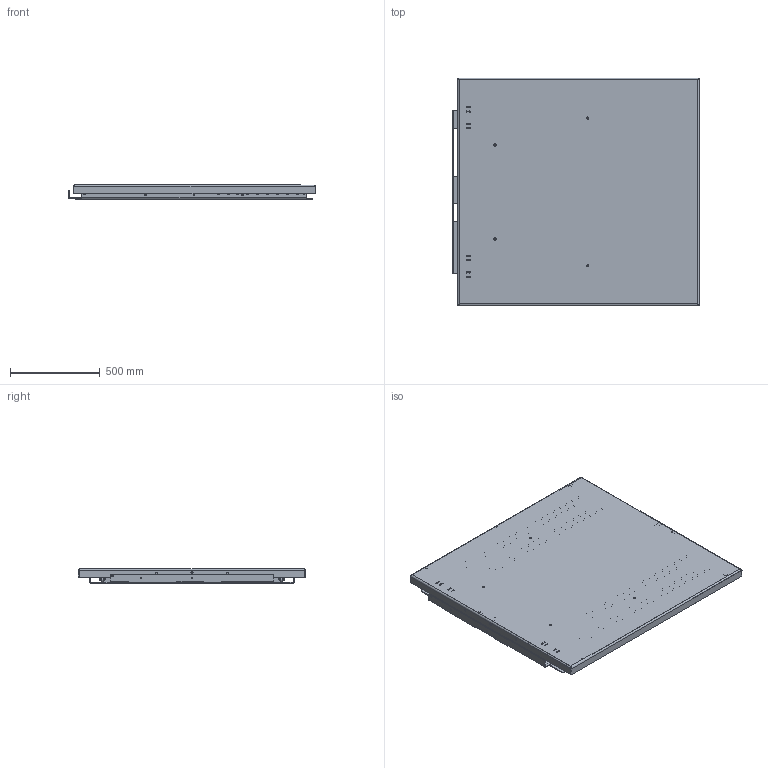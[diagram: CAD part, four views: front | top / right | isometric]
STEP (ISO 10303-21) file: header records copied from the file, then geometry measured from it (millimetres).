
FILE_DESCRIPTION(/* description */ ('TCL 1000GB 1350x1270'),/* implementation_level */ '2;1');
FILE_NAME(/* name */ 'C:\Autodesk_VaultWork\Ritningar\601224_Collapsed.stp',/* time_stamp */ '2019-04-05T08:59:37+02:00',/* author */ ('johso'),/* organization */ (''),/* preprocessor_version */ 'ST-DEVELOPER v16.5',/* originating_system */ 'Autodesk Inventor 2017',/* authorisation */ '');
FILE_SCHEMA (('AUTOMOTIVE_DESIGN { 1 0 10303 214 3 1 1 }'));
Length unit declared in the file: millimetre
Products named in the file (28): 601224.tmp; 602932; 602933; 80476; 601156; 601162; ISO 4019 - 80x60x4 - 828; 600513; 36570-1; 600502; 36571; 36572; 600950; 36159; 36546; 45254-10; 84409; 83208; 84157; 85797; 600493-161; 601158; 602066; 44572; 45087; ISO 4016 - M6 x 35; 45266; 612450
Assembly tree (68 placements, depth 5):
  601224.tmp
    602932
      602933
      45266  x8
      80476  x4
    601156
      601162
        ISO 4019 - 80x60x4 - 828  x2
        600513  x2
          36570-1
          600502
      36571  x2
        36572
      600950  x2
      36159  x2
      36546  x2
      45254-10  x2
      84409  x2
      83208  x2
      84157  x2
      600493-161  x2
      85797  x4
    601158
      602066
      44572  x2
      45087  x2
      ISO 4016 - M6 x 35  x6
      45266  x8
    612450
Bounding box: 1378.01 x 1270 x 80 mm (x, y, z)
Volume: 23409918.2 mm3; surface area: 8297629.6 mm2
Topology: 59 solids, 59 shells, 2762 faces, 7661 edges, 5047 vertices
Faces by surface type: cylinder 1438, plane 1080, cone 166, torus 38, bspline 36, sphere 4
Full cylindrical faces by diameter (mm): 5 x8, 5.5 x6, 6 x46, 7 x3, 7.4 x12, 8 x2, 8.376 x4, 8.5 x16, 8.7 x4, 9 x6, 10 x2, 10.5 x2, 11 x2, 11.63 x2, 12 x4, 12.5 x6, 13 x14, 14.63 x2, 16 x6, 17.2 x2, 22 x2, 22.1 x4
Entity records: 43200 total; most frequent: CARTESIAN_POINT 8109, DIRECTION 7438, ORIENTED_EDGE 6960, EDGE_CURVE 3480, AXIS2_PLACEMENT_3D 2717, VERTEX_POINT 2360, LINE 2004, VECTOR 2004
